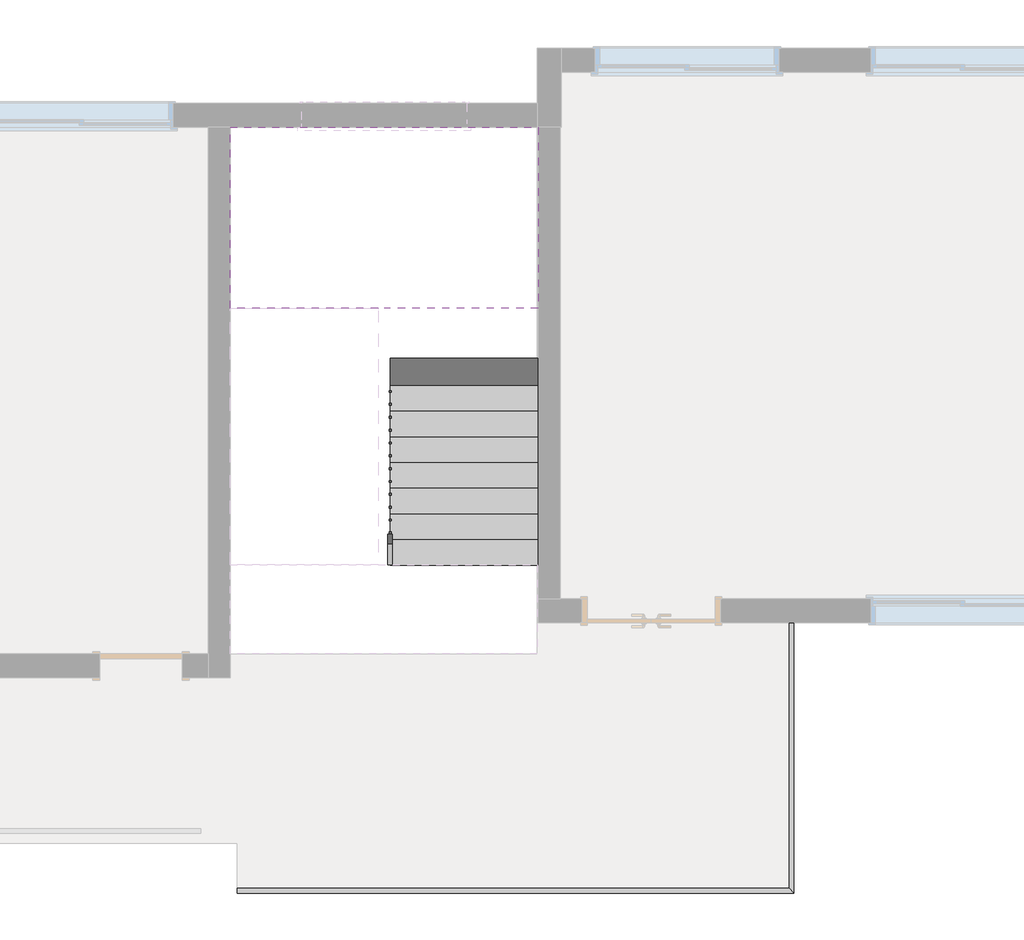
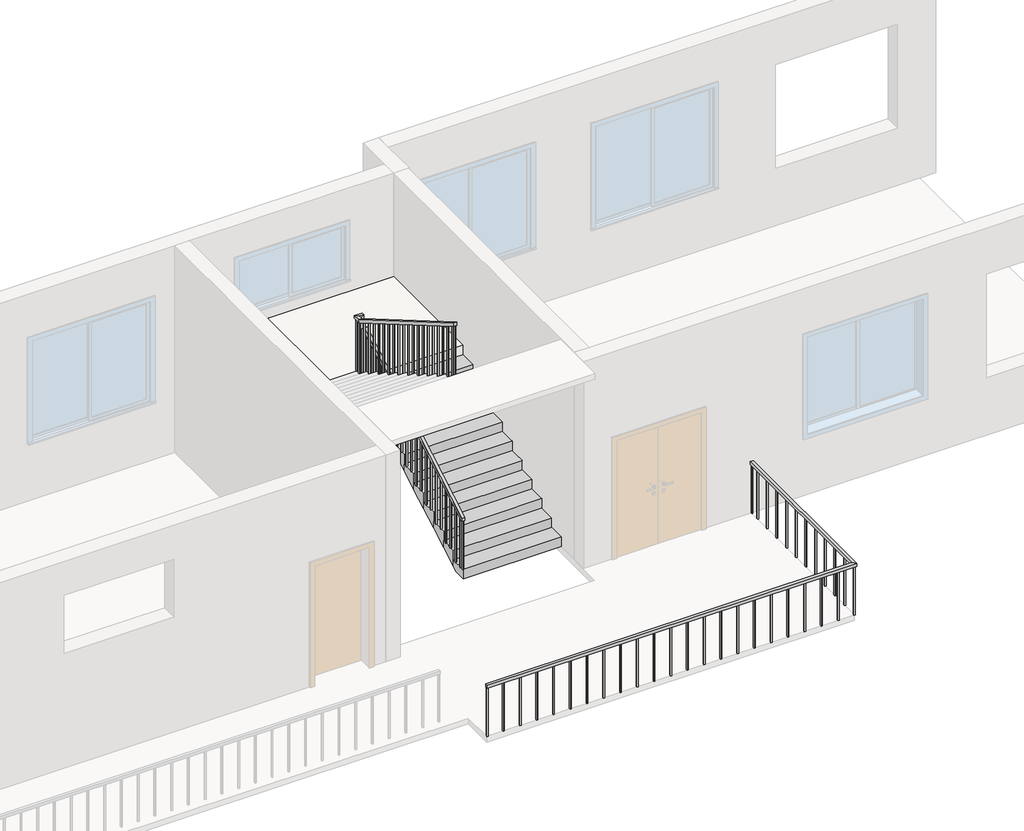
# One storey, part 3 of 3: 2 railings, 1 slab, 1 stair flight.
"""IFC4 building model written with IfcOpenShell, lengths in millimetres."""

from ifc_helpers import new_model, si_unit, frame, origin, place, context, project, spatial, polyline, outline, extrude, faceted_brep, element, save

model = new_model("IFC4")

# Units and contexts
model_context = context("Model", 3, world=origin())
ifc_project = project(units=[si_unit("LENGTHUNIT", "METRE", prefix="MILLI")], contexts=[model_context])

# Site, building, storey
site = spatial("IfcSite", under=ifc_project)
building = spatial("IfcBuilding", under=site)
storey = spatial("IfcBuildingStorey", under=building, Name="标高 2", Elevation=3600.0)

# Railings
placement = place(None, origin())
element("IfcRailing", 1, ObjectType="900mm", at=placement, inside=storey, context=model_context, shape_type="SolidModel", body=[
    faceted_brep([(13619.6165825, -6775.9601487, 4500.0), (13619.6165825, -6775.9601487, 4450.0), (13619.6165825, -6825.9601487, 4450.0), (13619.6165825, -6825.9601487, 4500.0), (19634.6165825, -6775.9601487, 4500.0), (19634.6165825, -6775.9601487, 4450.0), (19684.6165825, -6825.9601487, 4450.0), (19684.6165825, -6825.9601487, 4500.0), (19634.6165825, -3880.9601487, 4500.0), (19684.6165825, -3880.9601487, 4500.0), (19684.6165825, -3880.9601487, 4450.0), (19634.6165825, -3880.9601487, 4450.0)], [[[0, 1, 2, 3]], [[1, 0, 4, 5]], [[2, 1, 5, 6]], [[3, 2, 6, 7]], [[0, 3, 7, 4]], [[8, 9, 10, 11]], [[5, 4, 8, 11]], [[6, 5, 11, 10]], [[7, 6, 10, 9]], [[4, 7, 9, 8]]]),
    extrude(outline(polyline([(19669.6165825, -4060.9601487), (19649.6165825, -4060.9601487), (19649.6165825, -4040.9601487), (19669.6165825, -4040.9601487), (19669.6165825, -4060.9601487)])), frame((0.0, 0.0, 3600.0), z_axis=(0.0, 0.0, 1.0), x_axis=(1.0, 0.0, 0.0)), (0.0, 0.0, 1.0), 850.0),
    extrude(outline(polyline([(19669.6165825, -4335.9601487), (19649.6165825, -4335.9601487), (19649.6165825, -4315.9601487), (19669.6165825, -4315.9601487), (19669.6165825, -4335.9601487)])), frame((0.0, 0.0, 3600.0), z_axis=(0.0, 0.0, 1.0), x_axis=(1.0, 0.0, 0.0)), (0.0, 0.0, 1.0), 850.0),
    extrude(outline(polyline([(19669.6165825, -4610.9601487), (19649.6165825, -4610.9601487), (19649.6165825, -4590.9601487), (19669.6165825, -4590.9601487), (19669.6165825, -4610.9601487)])), frame((0.0, 0.0, 3600.0), z_axis=(0.0, 0.0, 1.0), x_axis=(1.0, 0.0, 0.0)), (0.0, 0.0, 1.0), 850.0),
    extrude(outline(polyline([(19669.6165825, -4885.9601487), (19649.6165825, -4885.9601487), (19649.6165825, -4865.9601487), (19669.6165825, -4865.9601487), (19669.6165825, -4885.9601487)])), frame((0.0, 0.0, 3600.0), z_axis=(0.0, 0.0, 1.0), x_axis=(1.0, 0.0, 0.0)), (0.0, 0.0, 1.0), 850.0),
    extrude(outline(polyline([(19669.6165825, -5160.9601487), (19649.6165825, -5160.9601487), (19649.6165825, -5140.9601487), (19669.6165825, -5140.9601487), (19669.6165825, -5160.9601487)])), frame((0.0, 0.0, 3600.0), z_axis=(0.0, 0.0, 1.0), x_axis=(1.0, 0.0, 0.0)), (0.0, 0.0, 1.0), 850.0),
    extrude(outline(polyline([(19669.6165825, -5435.9601487), (19649.6165825, -5435.9601487), (19649.6165825, -5415.9601487), (19669.6165825, -5415.9601487), (19669.6165825, -5435.9601487)])), frame((0.0, 0.0, 3600.0), z_axis=(0.0, 0.0, 1.0), x_axis=(1.0, 0.0, 0.0)), (0.0, 0.0, 1.0), 850.0),
    extrude(outline(polyline([(19669.6165825, -5710.9601487), (19649.6165825, -5710.9601487), (19649.6165825, -5690.9601487), (19669.6165825, -5690.9601487), (19669.6165825, -5710.9601487)])), frame((0.0, 0.0, 3600.0), z_axis=(0.0, 0.0, 1.0), x_axis=(1.0, 0.0, 0.0)), (0.0, 0.0, 1.0), 850.0),
    extrude(outline(polyline([(19669.6165825, -5985.9601487), (19649.6165825, -5985.9601487), (19649.6165825, -5965.9601487), (19669.6165825, -5965.9601487), (19669.6165825, -5985.9601487)])), frame((0.0, 0.0, 3600.0), z_axis=(0.0, 0.0, 1.0), x_axis=(1.0, 0.0, 0.0)), (0.0, 0.0, 1.0), 850.0),
    extrude(outline(polyline([(19669.6165825, -6260.9601487), (19649.6165825, -6260.9601487), (19649.6165825, -6240.9601487), (19669.6165825, -6240.9601487), (19669.6165825, -6260.9601487)])), frame((0.0, 0.0, 3600.0), z_axis=(0.0, 0.0, 1.0), x_axis=(1.0, 0.0, 0.0)), (0.0, 0.0, 1.0), 850.0),
    extrude(outline(polyline([(19669.6165825, -6535.9601487), (19649.6165825, -6535.9601487), (19649.6165825, -6515.9601487), (19669.6165825, -6515.9601487), (19669.6165825, -6535.9601487)])), frame((0.0, 0.0, 3600.0), z_axis=(0.0, 0.0, 1.0), x_axis=(1.0, 0.0, 0.0)), (0.0, 0.0, 1.0), 850.0),
    extrude(outline(polyline([(19384.6165825, -6810.9601487), (19384.6165825, -6790.9601487), (19404.6165825, -6790.9601487), (19404.6165825, -6810.9601487), (19384.6165825, -6810.9601487)])), frame((0.0, 0.0, 3600.0), z_axis=(0.0, 0.0, 1.0), x_axis=(1.0, 0.0, 0.0)), (0.0, 0.0, 1.0), 850.0),
    extrude(outline(polyline([(19109.6165825, -6810.9601487), (19109.6165825, -6790.9601487), (19129.6165825, -6790.9601487), (19129.6165825, -6810.9601487), (19109.6165825, -6810.9601487)])), frame((0.0, 0.0, 3600.0), z_axis=(0.0, 0.0, 1.0), x_axis=(1.0, 0.0, 0.0)), (0.0, 0.0, 1.0), 850.0),
    extrude(outline(polyline([(18834.6165825, -6810.9601487), (18834.6165825, -6790.9601487), (18854.6165825, -6790.9601487), (18854.6165825, -6810.9601487), (18834.6165825, -6810.9601487)])), frame((0.0, 0.0, 3600.0), z_axis=(0.0, 0.0, 1.0), x_axis=(1.0, 0.0, 0.0)), (0.0, 0.0, 1.0), 850.0),
    extrude(outline(polyline([(18559.6165825, -6810.9601487), (18559.6165825, -6790.9601487), (18579.6165825, -6790.9601487), (18579.6165825, -6810.9601487), (18559.6165825, -6810.9601487)])), frame((0.0, 0.0, 3600.0), z_axis=(0.0, 0.0, 1.0), x_axis=(1.0, 0.0, 0.0)), (0.0, 0.0, 1.0), 850.0),
    extrude(outline(polyline([(18284.6165825, -6810.9601487), (18284.6165825, -6790.9601487), (18304.6165825, -6790.9601487), (18304.6165825, -6810.9601487), (18284.6165825, -6810.9601487)])), frame((0.0, 0.0, 3600.0), z_axis=(0.0, 0.0, 1.0), x_axis=(1.0, 0.0, 0.0)), (0.0, 0.0, 1.0), 850.0),
    extrude(outline(polyline([(18009.6165825, -6810.9601487), (18009.6165825, -6790.9601487), (18029.6165825, -6790.9601487), (18029.6165825, -6810.9601487), (18009.6165825, -6810.9601487)])), frame((0.0, 0.0, 3600.0), z_axis=(0.0, 0.0, 1.0), x_axis=(1.0, 0.0, 0.0)), (0.0, 0.0, 1.0), 850.0),
    extrude(outline(polyline([(17734.6165825, -6810.9601487), (17734.6165825, -6790.9601487), (17754.6165825, -6790.9601487), (17754.6165825, -6810.9601487), (17734.6165825, -6810.9601487)])), frame((0.0, 0.0, 3600.0), z_axis=(0.0, 0.0, 1.0), x_axis=(1.0, 0.0, 0.0)), (0.0, 0.0, 1.0), 850.0),
    extrude(outline(polyline([(17459.6165825, -6810.9601487), (17459.6165825, -6790.9601487), (17479.6165825, -6790.9601487), (17479.6165825, -6810.9601487), (17459.6165825, -6810.9601487)])), frame((0.0, 0.0, 3600.0), z_axis=(0.0, 0.0, 1.0), x_axis=(1.0, 0.0, 0.0)), (0.0, 0.0, 1.0), 850.0),
    extrude(outline(polyline([(17184.6165825, -6810.9601487), (17184.6165825, -6790.9601487), (17204.6165825, -6790.9601487), (17204.6165825, -6810.9601487), (17184.6165825, -6810.9601487)])), frame((0.0, 0.0, 3600.0), z_axis=(0.0, 0.0, 1.0), x_axis=(1.0, 0.0, 0.0)), (0.0, 0.0, 1.0), 850.0),
    extrude(outline(polyline([(16909.6165825, -6810.9601487), (16909.6165825, -6790.9601487), (16929.6165825, -6790.9601487), (16929.6165825, -6810.9601487), (16909.6165825, -6810.9601487)])), frame((0.0, 0.0, 3600.0), z_axis=(0.0, 0.0, 1.0), x_axis=(1.0, 0.0, 0.0)), (0.0, 0.0, 1.0), 850.0),
    extrude(outline(polyline([(16634.6165825, -6810.9601487), (16634.6165825, -6790.9601487), (16654.6165825, -6790.9601487), (16654.6165825, -6810.9601487), (16634.6165825, -6810.9601487)])), frame((0.0, 0.0, 3600.0), z_axis=(0.0, 0.0, 1.0), x_axis=(1.0, 0.0, 0.0)), (0.0, 0.0, 1.0), 850.0),
    extrude(outline(polyline([(16359.6165825, -6810.9601487), (16359.6165825, -6790.9601487), (16379.6165825, -6790.9601487), (16379.6165825, -6810.9601487), (16359.6165825, -6810.9601487)])), frame((0.0, 0.0, 3600.0), z_axis=(0.0, 0.0, 1.0), x_axis=(1.0, 0.0, 0.0)), (0.0, 0.0, 1.0), 850.0),
    extrude(outline(polyline([(16084.6165825, -6810.9601487), (16084.6165825, -6790.9601487), (16104.6165825, -6790.9601487), (16104.6165825, -6810.9601487), (16084.6165825, -6810.9601487)])), frame((0.0, 0.0, 3600.0), z_axis=(0.0, 0.0, 1.0), x_axis=(1.0, 0.0, 0.0)), (0.0, 0.0, 1.0), 850.0),
    extrude(outline(polyline([(15809.6165825, -6810.9601487), (15809.6165825, -6790.9601487), (15829.6165825, -6790.9601487), (15829.6165825, -6810.9601487), (15809.6165825, -6810.9601487)])), frame((0.0, 0.0, 3600.0), z_axis=(0.0, 0.0, 1.0), x_axis=(1.0, 0.0, 0.0)), (0.0, 0.0, 1.0), 850.0),
    extrude(outline(polyline([(15534.6165825, -6810.9601487), (15534.6165825, -6790.9601487), (15554.6165825, -6790.9601487), (15554.6165825, -6810.9601487), (15534.6165825, -6810.9601487)])), frame((0.0, 0.0, 3600.0), z_axis=(0.0, 0.0, 1.0), x_axis=(1.0, 0.0, 0.0)), (0.0, 0.0, 1.0), 850.0),
    extrude(outline(polyline([(15259.6165825, -6810.9601487), (15259.6165825, -6790.9601487), (15279.6165825, -6790.9601487), (15279.6165825, -6810.9601487), (15259.6165825, -6810.9601487)])), frame((0.0, 0.0, 3600.0), z_axis=(0.0, 0.0, 1.0), x_axis=(1.0, 0.0, 0.0)), (0.0, 0.0, 1.0), 850.0),
    extrude(outline(polyline([(14984.6165825, -6810.9601487), (14984.6165825, -6790.9601487), (15004.6165825, -6790.9601487), (15004.6165825, -6810.9601487), (14984.6165825, -6810.9601487)])), frame((0.0, 0.0, 3600.0), z_axis=(0.0, 0.0, 1.0), x_axis=(1.0, 0.0, 0.0)), (0.0, 0.0, 1.0), 850.0),
    extrude(outline(polyline([(14709.6165825, -6810.9601487), (14709.6165825, -6790.9601487), (14729.6165825, -6790.9601487), (14729.6165825, -6810.9601487), (14709.6165825, -6810.9601487)])), frame((0.0, 0.0, 3600.0), z_axis=(0.0, 0.0, 1.0), x_axis=(1.0, 0.0, 0.0)), (0.0, 0.0, 1.0), 850.0),
    extrude(outline(polyline([(14434.6165825, -6810.9601487), (14434.6165825, -6790.9601487), (14454.6165825, -6790.9601487), (14454.6165825, -6810.9601487), (14434.6165825, -6810.9601487)])), frame((0.0, 0.0, 3600.0), z_axis=(0.0, 0.0, 1.0), x_axis=(1.0, 0.0, 0.0)), (0.0, 0.0, 1.0), 850.0),
    extrude(outline(polyline([(14159.6165825, -6810.9601487), (14159.6165825, -6790.9601487), (14179.6165825, -6790.9601487), (14179.6165825, -6810.9601487), (14159.6165825, -6810.9601487)])), frame((0.0, 0.0, 3600.0), z_axis=(0.0, 0.0, 1.0), x_axis=(1.0, 0.0, 0.0)), (0.0, 0.0, 1.0), 850.0),
    extrude(outline(polyline([(13884.6165825, -6810.9601487), (13884.6165825, -6790.9601487), (13904.6165825, -6790.9601487), (13904.6165825, -6810.9601487), (13884.6165825, -6810.9601487)])), frame((0.0, 0.0, 3600.0), z_axis=(0.0, 0.0, 1.0), x_axis=(1.0, 0.0, 0.0)), (0.0, 0.0, 1.0), 850.0),
    extrude(outline(polyline([(19649.6165825, -6810.9601487), (19649.6165825, -6790.9601487), (19669.6165825, -6790.9601487), (19669.6165825, -6810.9601487), (19649.6165825, -6810.9601487)])), frame((0.0, 0.0, 3600.0), z_axis=(0.0, 0.0, 1.0), x_axis=(1.0, 0.0, 0.0)), (0.0, 0.0, 1.0), 850.0),
    extrude(outline(polyline([(19669.6165825, -3900.9601487), (19649.6165825, -3900.9601487), (19649.6165825, -3880.9601487), (19669.6165825, -3880.9601487), (19669.6165825, -3900.9601487)])), frame((0.0, 0.0, 3600.0), z_axis=(0.0, 0.0, 1.0), x_axis=(1.0, 0.0, 0.0)), (0.0, 0.0, 1.0), 850.0),
    extrude(outline(polyline([(13619.6165825, -6810.9601487), (13619.6165825, -6790.9601487), (13639.6165825, -6790.9601487), (13639.6165825, -6810.9601487), (13619.6165825, -6810.9601487)])), frame((0.0, 0.0, 3600.0), z_axis=(0.0, 0.0, 1.0), x_axis=(1.0, 0.0, 0.0)), (0.0, 0.0, 1.0), 850.0),
])
element("IfcRailing", 2, ObjectType="900mm", at=placement, inside=storey, context=model_context, shape_type="SolidModel", body=[
    faceted_brep([(15259.6165825, -3250.9601487, 4663.6363636), (15259.6165825, -3250.9601487, 4605.7238957), (15309.6165825, -3250.9601487, 4605.7238957), (15309.6165825, -3250.9601487, 4663.6363636), (15259.6165825, -475.9601487, 6285.3896104), (15309.6165825, -475.9601487, 6285.3896104), (15309.6165825, -425.9601487, 6256.6979217), (15259.6165825, -425.9601487, 6256.6979217)], [[[0, 1, 2, 3]], [[4, 5, 6, 7]], [[1, 0, 4, 7]], [[2, 1, 7, 6]], [[3, 2, 6, 5]], [[0, 3, 5, 4]]]),
    faceted_brep([(15179.6165825, -3250.9601487, 8100.0), (15129.6165825, -3250.9601487, 8100.0), (15129.6165825, -3250.9601487, 8042.0875321), (15179.6165825, -3250.9601487, 8042.0875321), (15179.6165825, -564.4992604, 6472.0779221), (15179.6165825, -550.9601487, 6522.0779221), (15129.6165825, -564.4992604, 6472.0779221), (15129.6165825, -550.9601487, 6522.0779221), (15254.6165825, -475.9601487, 6285.3896104), (15204.6165825, -475.9601487, 6285.3896104), (15204.6165825, -425.9601487, 6256.6979217), (15254.6165825, -425.9601487, 6256.6979217), (15254.6165825, -475.9601487, 6522.0779221), (15204.6165825, -475.9601487, 6472.0779221), (15204.6165825, -425.9601487, 6472.0779221), (15254.6165825, -425.9601487, 6522.0779221), (15179.6165825, -475.9601487, 6522.0779221), (15179.6165825, -475.9601487, 6472.0779221), (15129.6165825, -425.9601487, 6472.0779221), (15129.6165825, -425.9601487, 6522.0779221)], [[[0, 1, 2, 3]], [[4, 5, 0, 3]], [[6, 4, 3, 2]], [[7, 6, 2, 1]], [[5, 7, 1, 0]], [[8, 9, 10, 11]], [[9, 8, 12, 13]], [[10, 9, 13, 14]], [[11, 10, 14, 15]], [[8, 11, 15, 12]], [[13, 12, 16, 17]], [[14, 13, 17, 18]], [[15, 14, 18, 19]], [[12, 15, 19, 16]], [[17, 16, 5, 4]], [[18, 17, 4, 6]], [[19, 18, 6, 7]], [[16, 19, 7, 5]]]),
    extrude(outline(polyline([(-3170.9601487, 7995.3342853), (-3170.9601487, 7036.3636364), (-3190.9601487, 7036.3636364), (-3190.9601487, 8007.022597), (-3170.9601487, 7995.3342853)])), frame((15144.6165825, 0.0, 0.0), z_axis=(1.0, 0.0, 0.0), x_axis=(0.0, 1.0, 0.0)), (0.0, 0.0, 1.0), 20.0),
    extrude(outline(polyline([(-3030.9601487, 7913.5161035), (-3030.9601487, 7036.3636364), (-3050.9601487, 7036.3636364), (-3050.9601487, 7925.2044152), (-3030.9601487, 7913.5161035)])), frame((15144.6165825, 0.0, 0.0), z_axis=(1.0, 0.0, 0.0), x_axis=(0.0, 1.0, 0.0)), (0.0, 0.0, 1.0), 20.0),
    extrude(outline(polyline([(-2890.9601487, 7831.6979217), (-2890.9601487, 6872.7272727), (-2910.9601487, 6872.7272727), (-2910.9601487, 7843.3862334), (-2890.9601487, 7831.6979217)])), frame((15144.6165825, 0.0, 0.0), z_axis=(1.0, 0.0, 0.0), x_axis=(0.0, 1.0, 0.0)), (0.0, 0.0, 1.0), 20.0),
    extrude(outline(polyline([(-2750.9601487, 7749.8797399), (-2750.9601487, 6872.7272727), (-2770.9601487, 6872.7272727), (-2770.9601487, 7761.5680516), (-2750.9601487, 7749.8797399)])), frame((15144.6165825, 0.0, 0.0), z_axis=(1.0, 0.0, 0.0), x_axis=(0.0, 1.0, 0.0)), (0.0, 0.0, 1.0), 20.0),
    extrude(outline(polyline([(-2610.9601487, 7668.0615581), (-2610.9601487, 6709.0909091), (-2630.9601487, 6709.0909091), (-2630.9601487, 7679.7498698), (-2610.9601487, 7668.0615581)])), frame((15144.6165825, 0.0, 0.0), z_axis=(1.0, 0.0, 0.0), x_axis=(0.0, 1.0, 0.0)), (0.0, 0.0, 1.0), 20.0),
    extrude(outline(polyline([(-2470.9601487, 7586.2433763), (-2470.9601487, 6709.0909091), (-2490.9601487, 6709.0909091), (-2490.9601487, 7597.9316879), (-2470.9601487, 7586.2433763)])), frame((15144.6165825, 0.0, 0.0), z_axis=(1.0, 0.0, 0.0), x_axis=(0.0, 1.0, 0.0)), (0.0, 0.0, 1.0), 20.0),
    extrude(outline(polyline([(-2330.9601487, 7504.4251944), (-2330.9601487, 6545.4545455), (-2350.9601487, 6545.4545455), (-2350.9601487, 7516.1135061), (-2330.9601487, 7504.4251944)])), frame((15144.6165825, 0.0, 0.0), z_axis=(1.0, 0.0, 0.0), x_axis=(0.0, 1.0, 0.0)), (0.0, 0.0, 1.0), 20.0),
    extrude(outline(polyline([(-2190.9601487, 7422.6070126), (-2190.9601487, 6545.4545455), (-2210.9601487, 6545.4545455), (-2210.9601487, 7434.2953243), (-2190.9601487, 7422.6070126)])), frame((15144.6165825, 0.0, 0.0), z_axis=(1.0, 0.0, 0.0), x_axis=(0.0, 1.0, 0.0)), (0.0, 0.0, 1.0), 20.0),
    extrude(outline(polyline([(-2050.9601487, 7340.7888308), (-2050.9601487, 6381.8181818), (-2070.9601487, 6381.8181818), (-2070.9601487, 7352.4771425), (-2050.9601487, 7340.7888308)])), frame((15144.6165825, 0.0, 0.0), z_axis=(1.0, 0.0, 0.0), x_axis=(0.0, 1.0, 0.0)), (0.0, 0.0, 1.0), 20.0),
    extrude(outline(polyline([(-1910.9601487, 7258.970649), (-1910.9601487, 6381.8181818), (-1930.9601487, 6381.8181818), (-1930.9601487, 7270.6589607), (-1910.9601487, 7258.970649)])), frame((15144.6165825, 0.0, 0.0), z_axis=(1.0, 0.0, 0.0), x_axis=(0.0, 1.0, 0.0)), (0.0, 0.0, 1.0), 20.0),
    extrude(outline(polyline([(-1770.9601487, 7177.1524672), (-1770.9601487, 6218.1818182), (-1790.9601487, 6218.1818182), (-1790.9601487, 7188.8407789), (-1770.9601487, 7177.1524672)])), frame((15144.6165825, 0.0, 0.0), z_axis=(1.0, 0.0, 0.0), x_axis=(0.0, 1.0, 0.0)), (0.0, 0.0, 1.0), 20.0),
    extrude(outline(polyline([(-1630.9601487, 7095.3342853), (-1630.9601487, 6218.1818182), (-1650.9601487, 6218.1818182), (-1650.9601487, 7107.022597), (-1630.9601487, 7095.3342853)])), frame((15144.6165825, 0.0, 0.0), z_axis=(1.0, 0.0, 0.0), x_axis=(0.0, 1.0, 0.0)), (0.0, 0.0, 1.0), 20.0),
    extrude(outline(polyline([(-1490.9601487, 7013.5161035), (-1490.9601487, 6054.5454545), (-1510.9601487, 6054.5454545), (-1510.9601487, 7025.2044152), (-1490.9601487, 7013.5161035)])), frame((15144.6165825, 0.0, 0.0), z_axis=(1.0, 0.0, 0.0), x_axis=(0.0, 1.0, 0.0)), (0.0, 0.0, 1.0), 20.0),
    extrude(outline(polyline([(-1350.9601487, 6931.6979217), (-1350.9601487, 6054.5454545), (-1370.9601487, 6054.5454545), (-1370.9601487, 6943.3862334), (-1350.9601487, 6931.6979217)])), frame((15144.6165825, 0.0, 0.0), z_axis=(1.0, 0.0, 0.0), x_axis=(0.0, 1.0, 0.0)), (0.0, 0.0, 1.0), 20.0),
    extrude(outline(polyline([(-1210.9601487, 6849.8797399), (-1210.9601487, 5890.9090909), (-1230.9601487, 5890.9090909), (-1230.9601487, 6861.5680516), (-1210.9601487, 6849.8797399)])), frame((15144.6165825, 0.0, 0.0), z_axis=(1.0, 0.0, 0.0), x_axis=(0.0, 1.0, 0.0)), (0.0, 0.0, 1.0), 20.0),
    extrude(outline(polyline([(-1070.9601487, 6768.0615581), (-1070.9601487, 5890.9090909), (-1090.9601487, 5890.9090909), (-1090.9601487, 6779.7498698), (-1070.9601487, 6768.0615581)])), frame((15144.6165825, 0.0, 0.0), z_axis=(1.0, 0.0, 0.0), x_axis=(0.0, 1.0, 0.0)), (0.0, 0.0, 1.0), 20.0),
    extrude(outline(polyline([(-930.9601487, 6686.2433763), (-930.9601487, 5727.2727273), (-950.9601487, 5727.2727273), (-950.9601487, 6697.9316879), (-930.9601487, 6686.2433763)])), frame((15144.6165825, 0.0, 0.0), z_axis=(1.0, 0.0, 0.0), x_axis=(0.0, 1.0, 0.0)), (0.0, 0.0, 1.0), 20.0),
    extrude(outline(polyline([(-790.9601487, 6604.4251944), (-790.9601487, 5727.2727273), (-810.9601487, 5727.2727273), (-810.9601487, 6616.1135061), (-790.9601487, 6604.4251944)])), frame((15144.6165825, 0.0, 0.0), z_axis=(1.0, 0.0, 0.0), x_axis=(0.0, 1.0, 0.0)), (0.0, 0.0, 1.0), 20.0),
    extrude(outline(polyline([(-650.9601487, 6522.6070126), (-650.9601487, 5563.6363636), (-670.9601487, 5563.6363636), (-670.9601487, 6534.2953243), (-650.9601487, 6522.6070126)])), frame((15144.6165825, 0.0, 0.0), z_axis=(1.0, 0.0, 0.0), x_axis=(0.0, 1.0, 0.0)), (0.0, 0.0, 1.0), 20.0),
    extrude(outline(polyline([(15144.6165825, -510.9601487), (15164.6165825, -510.9601487), (15164.6165825, -530.9601487), (15144.6165825, -530.9601487), (15144.6165825, -510.9601487)])), frame((0.0, 0.0, 5563.6363636), z_axis=(0.0, 0.0, 1.0), x_axis=(1.0, 0.0, 0.0)), (0.0, 0.0, 1.0), 908.4415584),
    extrude(outline(polyline([(15224.6165825, -440.9601487), (15224.6165825, -460.9601487), (15204.6165825, -460.9601487), (15204.6165825, -440.9601487), (15224.6165825, -440.9601487)])), frame((0.0, 0.0, 5400.0), z_axis=(0.0, 0.0, 1.0), x_axis=(1.0, 0.0, 0.0)), (0.0, 0.0, 1.0), 1072.0779221),
    extrude(outline(polyline([(-530.9601487, 5236.3636364), (-530.9601487, 6195.3342853), (-510.9601487, 6207.022597), (-510.9601487, 5236.3636364), (-530.9601487, 5236.3636364)])), frame((15274.6165825, 0.0, 0.0), z_axis=(1.0, 0.0, 0.0), x_axis=(0.0, 1.0, 0.0)), (0.0, 0.0, 1.0), 20.0),
    extrude(outline(polyline([(-670.9601487, 5236.3636364), (-670.9601487, 6113.5161035), (-650.9601487, 6125.2044152), (-650.9601487, 5236.3636364), (-670.9601487, 5236.3636364)])), frame((15274.6165825, 0.0, 0.0), z_axis=(1.0, 0.0, 0.0), x_axis=(0.0, 1.0, 0.0)), (0.0, 0.0, 1.0), 20.0),
    extrude(outline(polyline([(-810.9601487, 5072.7272727), (-810.9601487, 6031.6979217), (-790.9601487, 6043.3862334), (-790.9601487, 5072.7272727), (-810.9601487, 5072.7272727)])), frame((15274.6165825, 0.0, 0.0), z_axis=(1.0, 0.0, 0.0), x_axis=(0.0, 1.0, 0.0)), (0.0, 0.0, 1.0), 20.0),
    extrude(outline(polyline([(-950.9601487, 5072.7272727), (-950.9601487, 5949.8797399), (-930.9601487, 5961.5680516), (-930.9601487, 5072.7272727), (-950.9601487, 5072.7272727)])), frame((15274.6165825, 0.0, 0.0), z_axis=(1.0, 0.0, 0.0), x_axis=(0.0, 1.0, 0.0)), (0.0, 0.0, 1.0), 20.0),
    extrude(outline(polyline([(-1090.9601487, 4909.0909091), (-1090.9601487, 5868.0615581), (-1070.9601487, 5879.7498698), (-1070.9601487, 4909.0909091), (-1090.9601487, 4909.0909091)])), frame((15274.6165825, 0.0, 0.0), z_axis=(1.0, 0.0, 0.0), x_axis=(0.0, 1.0, 0.0)), (0.0, 0.0, 1.0), 20.0),
    extrude(outline(polyline([(-1230.9601487, 4909.0909091), (-1230.9601487, 5786.2433763), (-1210.9601487, 5797.9316879), (-1210.9601487, 4909.0909091), (-1230.9601487, 4909.0909091)])), frame((15274.6165825, 0.0, 0.0), z_axis=(1.0, 0.0, 0.0), x_axis=(0.0, 1.0, 0.0)), (0.0, 0.0, 1.0), 20.0),
    extrude(outline(polyline([(-1370.9601487, 4745.4545455), (-1370.9601487, 5704.4251944), (-1350.9601487, 5716.1135061), (-1350.9601487, 4745.4545455), (-1370.9601487, 4745.4545455)])), frame((15274.6165825, 0.0, 0.0), z_axis=(1.0, 0.0, 0.0), x_axis=(0.0, 1.0, 0.0)), (0.0, 0.0, 1.0), 20.0),
    extrude(outline(polyline([(-1510.9601487, 4745.4545455), (-1510.9601487, 5622.6070126), (-1490.9601487, 5634.2953243), (-1490.9601487, 4745.4545455), (-1510.9601487, 4745.4545455)])), frame((15274.6165825, 0.0, 0.0), z_axis=(1.0, 0.0, 0.0), x_axis=(0.0, 1.0, 0.0)), (0.0, 0.0, 1.0), 20.0),
    extrude(outline(polyline([(-1650.9601487, 4581.8181818), (-1650.9601487, 5540.7888308), (-1630.9601487, 5552.4771425), (-1630.9601487, 4581.8181818), (-1650.9601487, 4581.8181818)])), frame((15274.6165825, 0.0, 0.0), z_axis=(1.0, 0.0, 0.0), x_axis=(0.0, 1.0, 0.0)), (0.0, 0.0, 1.0), 20.0),
    extrude(outline(polyline([(-1790.9601487, 4581.8181818), (-1790.9601487, 5458.970649), (-1770.9601487, 5470.6589607), (-1770.9601487, 4581.8181818), (-1790.9601487, 4581.8181818)])), frame((15274.6165825, 0.0, 0.0), z_axis=(1.0, 0.0, 0.0), x_axis=(0.0, 1.0, 0.0)), (0.0, 0.0, 1.0), 20.0),
    extrude(outline(polyline([(-1930.9601487, 4418.1818182), (-1930.9601487, 5377.1524672), (-1910.9601487, 5388.8407789), (-1910.9601487, 4418.1818182), (-1930.9601487, 4418.1818182)])), frame((15274.6165825, 0.0, 0.0), z_axis=(1.0, 0.0, 0.0), x_axis=(0.0, 1.0, 0.0)), (0.0, 0.0, 1.0), 20.0),
    extrude(outline(polyline([(-2070.9601487, 4418.1818182), (-2070.9601487, 5295.3342853), (-2050.9601487, 5307.022597), (-2050.9601487, 4418.1818182), (-2070.9601487, 4418.1818182)])), frame((15274.6165825, 0.0, 0.0), z_axis=(1.0, 0.0, 0.0), x_axis=(0.0, 1.0, 0.0)), (0.0, 0.0, 1.0), 20.0),
    extrude(outline(polyline([(-2210.9601487, 4254.5454545), (-2210.9601487, 5213.5161035), (-2190.9601487, 5225.2044152), (-2190.9601487, 4254.5454545), (-2210.9601487, 4254.5454545)])), frame((15274.6165825, 0.0, 0.0), z_axis=(1.0, 0.0, 0.0), x_axis=(0.0, 1.0, 0.0)), (0.0, 0.0, 1.0), 20.0),
    extrude(outline(polyline([(-2350.9601487, 4254.5454545), (-2350.9601487, 5131.6979217), (-2330.9601487, 5143.3862334), (-2330.9601487, 4254.5454545), (-2350.9601487, 4254.5454545)])), frame((15274.6165825, 0.0, 0.0), z_axis=(1.0, 0.0, 0.0), x_axis=(0.0, 1.0, 0.0)), (0.0, 0.0, 1.0), 20.0),
    extrude(outline(polyline([(-2490.9601487, 4090.9090909), (-2490.9601487, 5049.8797399), (-2470.9601487, 5061.5680516), (-2470.9601487, 4090.9090909), (-2490.9601487, 4090.9090909)])), frame((15274.6165825, 0.0, 0.0), z_axis=(1.0, 0.0, 0.0), x_axis=(0.0, 1.0, 0.0)), (0.0, 0.0, 1.0), 20.0),
    extrude(outline(polyline([(-2630.9601487, 4090.9090909), (-2630.9601487, 4968.0615581), (-2610.9601487, 4979.7498698), (-2610.9601487, 4090.9090909), (-2630.9601487, 4090.9090909)])), frame((15274.6165825, 0.0, 0.0), z_axis=(1.0, 0.0, 0.0), x_axis=(0.0, 1.0, 0.0)), (0.0, 0.0, 1.0), 20.0),
    extrude(outline(polyline([(-2770.9601487, 3927.2727273), (-2770.9601487, 4886.2433763), (-2750.9601487, 4897.9316879), (-2750.9601487, 3927.2727273), (-2770.9601487, 3927.2727273)])), frame((15274.6165825, 0.0, 0.0), z_axis=(1.0, 0.0, 0.0), x_axis=(0.0, 1.0, 0.0)), (0.0, 0.0, 1.0), 20.0),
    extrude(outline(polyline([(-2910.9601487, 3927.2727273), (-2910.9601487, 4804.4251944), (-2890.9601487, 4816.1135061), (-2890.9601487, 3927.2727273), (-2910.9601487, 3927.2727273)])), frame((15274.6165825, 0.0, 0.0), z_axis=(1.0, 0.0, 0.0), x_axis=(0.0, 1.0, 0.0)), (0.0, 0.0, 1.0), 20.0),
    extrude(outline(polyline([(-3050.9601487, 3763.6363636), (-3050.9601487, 4722.6070126), (-3030.9601487, 4734.2953243), (-3030.9601487, 3763.6363636), (-3050.9601487, 3763.6363636)])), frame((15274.6165825, 0.0, 0.0), z_axis=(1.0, 0.0, 0.0), x_axis=(0.0, 1.0, 0.0)), (0.0, 0.0, 1.0), 20.0),
    extrude(outline(polyline([(-3190.9601487, 3763.6363636), (-3190.9601487, 4640.7888308), (-3170.9601487, 4652.4771425), (-3170.9601487, 3763.6363636), (-3190.9601487, 3763.6363636)])), frame((15274.6165825, 0.0, 0.0), z_axis=(1.0, 0.0, 0.0), x_axis=(0.0, 1.0, 0.0)), (0.0, 0.0, 1.0), 20.0),
    extrude(outline(polyline([(15164.6165825, -440.9601487), (15164.6165825, -460.9601487), (15144.6165825, -460.9601487), (15144.6165825, -440.9601487), (15164.6165825, -440.9601487)])), frame((0.0, 0.0, 5400.0), z_axis=(0.0, 0.0, 1.0), x_axis=(1.0, 0.0, 0.0)), (0.0, 0.0, 1.0), 1072.0779221),
    extrude(outline(polyline([(-460.9601487, 5400.0), (-460.9601487, 6236.2433763), (-440.9601487, 6247.9316879), (-440.9601487, 5400.0), (-460.9601487, 5400.0)])), frame((15274.6165825, 0.0, 0.0), z_axis=(1.0, 0.0, 0.0), x_axis=(0.0, 1.0, 0.0)), (0.0, 0.0, 1.0), 20.0),
    extrude(outline(polyline([(-3230.9601487, 8030.3992204), (-3230.9601487, 7036.3636364), (-3250.9601487, 7036.3636364), (-3250.9601487, 8042.0875321), (-3230.9601487, 8030.3992204)])), frame((15144.6165825, 0.0, 0.0), z_axis=(1.0, 0.0, 0.0), x_axis=(0.0, 1.0, 0.0)), (0.0, 0.0, 1.0), 20.0),
    extrude(outline(polyline([(-3250.9601487, 3763.6363636), (-3250.9601487, 4605.7238957), (-3230.9601487, 4617.4122074), (-3230.9601487, 3763.6363636), (-3250.9601487, 3763.6363636)])), frame((15274.6165825, 0.0, 0.0), z_axis=(1.0, 0.0, 0.0), x_axis=(0.0, 1.0, 0.0)), (0.0, 0.0, 1.0), 20.0),
])

# Slab
element("IfcSlab", 3, ObjectType="100mm 厚度", at=placement, inside=storey, context=model_context, shape_type="Brep", body=[
    faceted_brep([(15284.6165825, -450.9601487, 5400.0), (16899.6165825, -450.9601487, 5400.0), (16899.6165825, -143.8819252, 5400.0), (16899.6165825, 1519.0398513, 5400.0), (13539.6165825, 1519.0398513, 5400.0), (13539.6165825, -450.9601487, 5400.0), (15154.6165825, -450.9601487, 5400.0), (15284.6165825, -450.9601487, 5300.0), (15284.6165825, -450.9601487, 5236.3636364), (15284.6165825, -450.9601487, 5120.5387006), (16899.6165825, -450.9601487, 5120.5387006), (16899.6165825, -450.9601487, 5236.3636364), (16899.6165825, -143.8819252, 5300.0), (16899.6165825, 1519.0398513, 5300.0), (13539.6165825, 1519.0398513, 5300.0), (13539.6165825, -450.9601487, 5300.0), (15154.6165825, -450.9601487, 5300.0), (15284.6165825, -143.8819252, 5300.0)], [[[0, 1, 2, 3, 4, 5, 6]], [[1, 0, 7, 8, 9, 10, 11]], [[1, 11, 10, 12, 13, 3, 2]], [[4, 3, 13, 14]], [[5, 4, 14, 15]], [[6, 5, 15, 16]], [[0, 6, 16, 7]], [[12, 17, 7, 16, 15, 14, 13]], [[17, 12, 10, 9]], [[7, 17, 9, 8]]]),
])

# Stair flight
element("IfcStairFlight", 4, ObjectType="100mm 结构深度", at=placement, inside=storey, context=model_context, shape_type="Brep", body=[
    faceted_brep([(15284.6165825, -2970.9601487, 3763.6363636), (15284.6165825, -3250.9601487, 3763.6363636), (16899.6165825, -3250.9601487, 3763.6363636), (16899.6165825, -2970.9601487, 3763.6363636), (15284.6165825, -2970.9601487, 3647.8114278), (15284.6165825, -3052.7708141, 3600.0), (15284.6165825, -3250.9601487, 3600.0), (16899.6165825, -3250.9601487, 3600.0), (16899.6165825, -3052.7708141, 3600.0), (16899.6165825, -2970.9601487, 3647.8114278), (15284.6165825, -2690.9601487, 3927.2727273), (15284.6165825, -2970.9601487, 3927.2727273), (16899.6165825, -2970.9601487, 3927.2727273), (16899.6165825, -2690.9601487, 3927.2727273), (15284.6165825, -2690.9601487, 3811.4477915), (16899.6165825, -2690.9601487, 3811.4477915), (15284.6165825, -2410.9601487, 4090.9090909), (15284.6165825, -2690.9601487, 4090.9090909), (16899.6165825, -2690.9601487, 4090.9090909), (16899.6165825, -2410.9601487, 4090.9090909), (15284.6165825, -2410.9601487, 3975.0841551), (16899.6165825, -2410.9601487, 3975.0841551), (15284.6165825, -2130.9601487, 4254.5454545), (15284.6165825, -2410.9601487, 4254.5454545), (16899.6165825, -2410.9601487, 4254.5454545), (16899.6165825, -2130.9601487, 4254.5454545), (15284.6165825, -2130.9601487, 4138.7205187), (16899.6165825, -2130.9601487, 4138.7205187), (15284.6165825, -1850.9601487, 4418.1818182), (15284.6165825, -2130.9601487, 4418.1818182), (16899.6165825, -2130.9601487, 4418.1818182), (16899.6165825, -1850.9601487, 4418.1818182), (15284.6165825, -1850.9601487, 4302.3568824), (16899.6165825, -1850.9601487, 4302.3568824), (15284.6165825, -1570.9601487, 4581.8181818), (15284.6165825, -1850.9601487, 4581.8181818), (16899.6165825, -1850.9601487, 4581.8181818), (16899.6165825, -1570.9601487, 4581.8181818), (15284.6165825, -1570.9601487, 4465.993246), (16899.6165825, -1570.9601487, 4465.993246), (15284.6165825, -1290.9601487, 4745.4545455), (15284.6165825, -1570.9601487, 4745.4545455), (16899.6165825, -1570.9601487, 4745.4545455), (16899.6165825, -1290.9601487, 4745.4545455), (15284.6165825, -1290.9601487, 4629.6296097), (16899.6165825, -1290.9601487, 4629.6296097), (15284.6165825, -1010.9601487, 4909.0909091), (15284.6165825, -1290.9601487, 4909.0909091), (16899.6165825, -1290.9601487, 4909.0909091), (16899.6165825, -1010.9601487, 4909.0909091), (15284.6165825, -1010.9601487, 4793.2659733), (16899.6165825, -1010.9601487, 4793.2659733), (15284.6165825, -730.9601487, 5072.7272727), (15284.6165825, -1010.9601487, 5072.7272727), (16899.6165825, -1010.9601487, 5072.7272727), (16899.6165825, -730.9601487, 5072.7272727), (15284.6165825, -730.9601487, 4956.9023369), (16899.6165825, -730.9601487, 4956.9023369), (15284.6165825, -450.9601487, 5236.3636364), (15284.6165825, -730.9601487, 5236.3636364), (16899.6165825, -730.9601487, 5236.3636364), (16899.6165825, -450.9601487, 5236.3636364), (15284.6165825, -450.9601487, 5120.5387006), (16899.6165825, -450.9601487, 5120.5387006)], [[[0, 1, 2, 3]], [[1, 0, 4, 5, 6]], [[2, 1, 6, 7]], [[3, 2, 7, 8, 9]], [[10, 11, 12, 13]], [[11, 10, 14, 4, 0]], [[0, 3, 12, 11]], [[13, 12, 3, 9, 15]], [[16, 17, 18, 19]], [[17, 16, 20, 14, 10]], [[10, 13, 18, 17]], [[19, 18, 13, 15, 21]], [[22, 23, 24, 25]], [[23, 22, 26, 20, 16]], [[16, 19, 24, 23]], [[25, 24, 19, 21, 27]], [[28, 29, 30, 31]], [[29, 28, 32, 26, 22]], [[22, 25, 30, 29]], [[31, 30, 25, 27, 33]], [[34, 35, 36, 37]], [[35, 34, 38, 32, 28]], [[28, 31, 36, 35]], [[37, 36, 31, 33, 39]], [[40, 41, 42, 43]], [[41, 40, 44, 38, 34]], [[34, 37, 42, 41]], [[43, 42, 37, 39, 45]], [[46, 47, 48, 49]], [[47, 46, 50, 44, 40]], [[40, 43, 48, 47]], [[49, 48, 43, 45, 51]], [[52, 53, 54, 55]], [[53, 52, 56, 50, 46]], [[46, 49, 54, 53]], [[55, 54, 49, 51, 57]], [[58, 59, 60, 61]], [[59, 58, 62, 56, 52]], [[52, 55, 60, 59]], [[61, 60, 55, 57, 63]], [[58, 61, 63, 62]], [[7, 6, 5, 8]], [[8, 5, 4, 14, 20, 26, 32, 38, 44, 50, 56, 62, 63, 57, 51, 45, 39, 33, 27, 21, 15, 9]]]),
])

save(model, "model.ifc")
